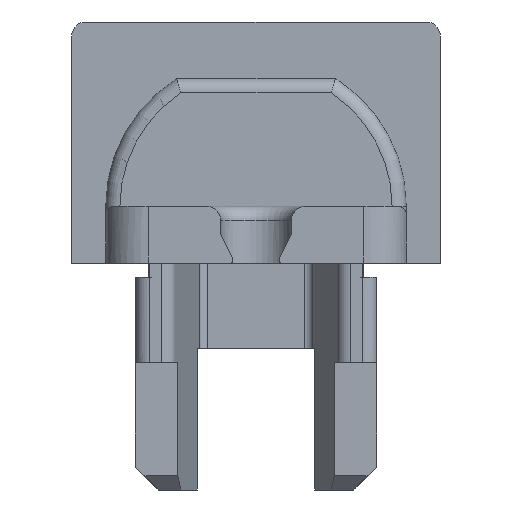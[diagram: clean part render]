
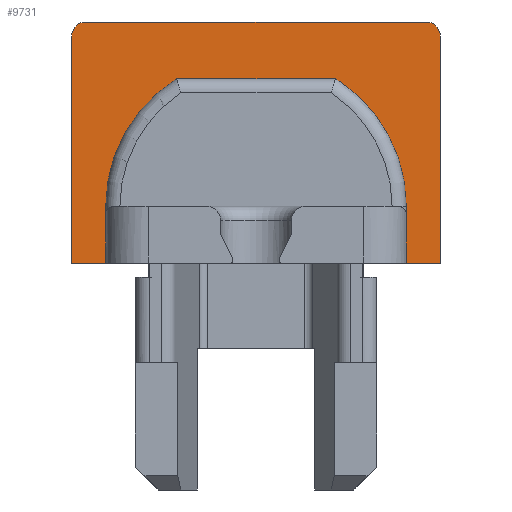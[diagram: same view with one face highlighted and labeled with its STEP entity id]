
A CAD part, front view. The second image highlights one B-rep face of the part: STEP entity #9731.
In plain terms, the highlighted planar face has unit normal (0, -1, 0).
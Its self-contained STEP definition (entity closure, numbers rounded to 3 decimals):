
#84 = DIRECTION ( 'NONE',  ( 0., 1., 0. ) ) ;
#231 = AXIS2_PLACEMENT_3D ( 'NONE', #2686, #4953, #7298 ) ;
#274 = DIRECTION ( 'NONE',  ( 1., 0., 0. ) ) ;
#308 = DIRECTION ( 'NONE',  ( 1., 0., 0. ) ) ;
#318 = CARTESIAN_POINT ( 'NONE',  ( 5.3, 7.5, 2. ) ) ;
#390 = AXIS2_PLACEMENT_3D ( 'NONE', #3568, #1244, #4775 ) ;
#519 = DIRECTION ( 'NONE',  ( 0., 0., -1. ) ) ;
#543 = CARTESIAN_POINT ( 'NONE',  ( 2.8, 7.5, 6.5 ) ) ;
#573 = DIRECTION ( 'NONE',  ( -1., 0., 0. ) ) ;
#875 = EDGE_CURVE ( 'NONE', #2328, #11661, #6650, .T. ) ;
#1006 = ORIENTED_EDGE ( 'NONE', *, *, #11050, .F. ) ;
#1181 = LINE ( 'NONE', #13887, #6214 ) ;
#1244 = DIRECTION ( 'NONE',  ( 0., -1., 0. ) ) ;
#1368 = EDGE_CURVE ( 'NONE', #11661, #4705, #6259, .T. ) ;
#1410 = DIRECTION ( 'NONE',  ( 1., 0., 0. ) ) ;
#1544 = AXIS2_PLACEMENT_3D ( 'NONE', #4915, #9555, #8415 ) ;
#1600 = CARTESIAN_POINT ( 'NONE',  ( 0., 7.5, 2. ) ) ;
#1619 = EDGE_CURVE ( 'NONE', #12023, #14483, #4575, .T. ) ;
#1650 = VERTEX_POINT ( 'NONE', #7072 ) ;
#1682 = ORIENTED_EDGE ( 'NONE', *, *, #1619, .T. ) ;
#1827 = EDGE_CURVE ( 'NONE', #2487, #9549, #6095, .T. ) ;
#2019 = VECTOR ( 'NONE', #14184, 1000. ) ;
#2034 = CARTESIAN_POINT ( 'NONE',  ( 5.3, 7.5, 1.7 ) ) ;
#2080 = CARTESIAN_POINT ( 'NONE',  ( 5.3, 7.5, 0. ) ) ;
#2082 = VECTOR ( 'NONE', #9439, 1000. ) ;
#2328 = VERTEX_POINT ( 'NONE', #6448 ) ;
#2339 = AXIS2_PLACEMENT_3D ( 'NONE', #1600, #12794, #308 ) ;
#2487 = VERTEX_POINT ( 'NONE', #543 ) ;
#2499 = ORIENTED_EDGE ( 'NONE', *, *, #12017, .T. ) ;
#2516 = CARTESIAN_POINT ( 'NONE',  ( 6.5, 7.5, 8. ) ) ;
#2685 = CARTESIAN_POINT ( 'NONE',  ( -2.8, 7.5, 6.5 ) ) ;
#2686 = CARTESIAN_POINT ( 'NONE',  ( 6., 7.5, 8. ) ) ;
#2913 = CARTESIAN_POINT ( 'NONE',  ( -5.3, 7.5, 2. ) ) ;
#3051 = CIRCLE ( 'NONE', #2339, 5.3 ) ;
#3314 = ORIENTED_EDGE ( 'NONE', *, *, #8057, .F. ) ;
#3568 = CARTESIAN_POINT ( 'NONE',  ( -6., 7.5, 8. ) ) ;
#3594 = CIRCLE ( 'NONE', #231, 0.5 ) ;
#4067 = ORIENTED_EDGE ( 'NONE', *, *, #10147, .T. ) ;
#4088 = CARTESIAN_POINT ( 'NONE',  ( 5.3, 7.5, 0. ) ) ;
#4424 = EDGE_LOOP ( 'NONE', ( #12896, #2499, #1006, #7783, #5605, #4067, #13549, #12945, #3314, #13296, #8320, #1682, #14324, #11537 ) ) ;
#4552 = CARTESIAN_POINT ( 'NONE',  ( 6.5, 7.5, 0. ) ) ;
#4569 = LINE ( 'NONE', #13819, #8088 ) ;
#4575 = LINE ( 'NONE', #5716, #2082 ) ;
#4634 = LINE ( 'NONE', #8212, #14741 ) ;
#4685 = DIRECTION ( 'NONE',  ( -1., 0., 0. ) ) ;
#4705 = VERTEX_POINT ( 'NONE', #12779 ) ;
#4751 = VECTOR ( 'NONE', #9029, 1000. ) ;
#4764 = FACE_OUTER_BOUND ( 'NONE', #4424, .T. ) ;
#4775 = DIRECTION ( 'NONE',  ( -1., 0., 0. ) ) ;
#4810 = VECTOR ( 'NONE', #14485, 1000. ) ;
#4915 = CARTESIAN_POINT ( 'NONE',  ( 0., 7.5, 2. ) ) ;
#4953 = DIRECTION ( 'NONE',  ( 0., -1., 0. ) ) ;
#5605 = ORIENTED_EDGE ( 'NONE', *, *, #1368, .T. ) ;
#5716 = CARTESIAN_POINT ( 'NONE',  ( 5.3, 7.5, 2. ) ) ;
#5960 = AXIS2_PLACEMENT_3D ( 'NONE', #318, #84, #4685 ) ;
#6095 = LINE ( 'NONE', #2685, #9802 ) ;
#6214 = VECTOR ( 'NONE', #1410, 1000. ) ;
#6259 = LINE ( 'NONE', #10897, #7878 ) ;
#6448 = CARTESIAN_POINT ( 'NONE',  ( -6., 7.5, 8.5 ) ) ;
#6650 = CIRCLE ( 'NONE', #390, 0.5 ) ;
#6799 = EDGE_CURVE ( 'NONE', #14660, #14831, #8877, .T. ) ;
#6834 = CARTESIAN_POINT ( 'NONE',  ( 6., 7.5, 8.5 ) ) ;
#7059 = EDGE_CURVE ( 'NONE', #14483, #14660, #4569, .T. ) ;
#7072 = CARTESIAN_POINT ( 'NONE',  ( -5.3, 7.5, 2. ) ) ;
#7298 = DIRECTION ( 'NONE',  ( -1., 0., 0. ) ) ;
#7535 = VERTEX_POINT ( 'NONE', #9252 ) ;
#7783 = ORIENTED_EDGE ( 'NONE', *, *, #875, .T. ) ;
#7809 = EDGE_CURVE ( 'NONE', #7833, #7535, #11926, .T. ) ;
#7815 = CIRCLE ( 'NONE', #1544, 5.3 ) ;
#7824 = PLANE ( 'NONE',  #5960 ) ;
#7833 = VERTEX_POINT ( 'NONE', #8355 ) ;
#7878 = VECTOR ( 'NONE', #519, 1000. ) ;
#8057 = EDGE_CURVE ( 'NONE', #9549, #1650, #7815, .T. ) ;
#8088 = VECTOR ( 'NONE', #10073, 1000. ) ;
#8160 = CARTESIAN_POINT ( 'NONE',  ( -6.5, 7.5, 8. ) ) ;
#8212 = CARTESIAN_POINT ( 'NONE',  ( -6.5, 7.5, 8.5 ) ) ;
#8320 = ORIENTED_EDGE ( 'NONE', *, *, #9257, .F. ) ;
#8355 = CARTESIAN_POINT ( 'NONE',  ( -5.3, 7.5, 1.7 ) ) ;
#8415 = DIRECTION ( 'NONE',  ( 1., 0., 0. ) ) ;
#8877 = LINE ( 'NONE', #4088, #10764 ) ;
#9029 = DIRECTION ( 'NONE',  ( 0., 0., -1. ) ) ;
#9252 = CARTESIAN_POINT ( 'NONE',  ( -5.3, 7.5, 0. ) ) ;
#9257 = EDGE_CURVE ( 'NONE', #12023, #2487, #3051, .T. ) ;
#9439 = DIRECTION ( 'NONE',  ( 0., 0., -1. ) ) ;
#9549 = VERTEX_POINT ( 'NONE', #10650 ) ;
#9555 = DIRECTION ( 'NONE',  ( 0., -1., 0. ) ) ;
#9650 = CARTESIAN_POINT ( 'NONE',  ( -5.3, 7.5, 2. ) ) ;
#9731 = ADVANCED_FACE ( 'NONE', ( #4764 ), #7824, .F. ) ;
#9802 = VECTOR ( 'NONE', #573, 1000. ) ;
#10073 = DIRECTION ( 'NONE',  ( 0., 0., -1. ) ) ;
#10147 = EDGE_CURVE ( 'NONE', #4705, #7535, #1181, .T. ) ;
#10167 = VERTEX_POINT ( 'NONE', #6834 ) ;
#10332 = EDGE_CURVE ( 'NONE', #12421, #14831, #12447, .T. ) ;
#10650 = CARTESIAN_POINT ( 'NONE',  ( -2.8, 7.5, 6.5 ) ) ;
#10764 = VECTOR ( 'NONE', #11085, 1000. ) ;
#10897 = CARTESIAN_POINT ( 'NONE',  ( -6.5, 7.5, 2. ) ) ;
#11050 = EDGE_CURVE ( 'NONE', #2328, #10167, #4634, .T. ) ;
#11085 = DIRECTION ( 'NONE',  ( 1., 0., 0. ) ) ;
#11537 = ORIENTED_EDGE ( 'NONE', *, *, #6799, .T. ) ;
#11661 = VERTEX_POINT ( 'NONE', #8160 ) ;
#11926 = LINE ( 'NONE', #9650, #2019 ) ;
#11936 = CARTESIAN_POINT ( 'NONE',  ( 5.3, 7.5, 2. ) ) ;
#12017 = EDGE_CURVE ( 'NONE', #12421, #10167, #3594, .T. ) ;
#12023 = VERTEX_POINT ( 'NONE', #11936 ) ;
#12163 = LINE ( 'NONE', #2913, #4810 ) ;
#12421 = VERTEX_POINT ( 'NONE', #2516 ) ;
#12447 = LINE ( 'NONE', #14619, #4751 ) ;
#12779 = CARTESIAN_POINT ( 'NONE',  ( -6.5, 7.5, 0. ) ) ;
#12794 = DIRECTION ( 'NONE',  ( 0., -1., 0. ) ) ;
#12896 = ORIENTED_EDGE ( 'NONE', *, *, #10332, .F. ) ;
#12945 = ORIENTED_EDGE ( 'NONE', *, *, #12992, .F. ) ;
#12992 = EDGE_CURVE ( 'NONE', #1650, #7833, #12163, .T. ) ;
#13296 = ORIENTED_EDGE ( 'NONE', *, *, #1827, .F. ) ;
#13549 = ORIENTED_EDGE ( 'NONE', *, *, #7809, .F. ) ;
#13819 = CARTESIAN_POINT ( 'NONE',  ( 5.3, 7.5, 2. ) ) ;
#13887 = CARTESIAN_POINT ( 'NONE',  ( -5.3, 7.5, 0. ) ) ;
#14184 = DIRECTION ( 'NONE',  ( 0., 0., -1. ) ) ;
#14324 = ORIENTED_EDGE ( 'NONE', *, *, #7059, .T. ) ;
#14483 = VERTEX_POINT ( 'NONE', #2034 ) ;
#14485 = DIRECTION ( 'NONE',  ( 0., 0., -1. ) ) ;
#14619 = CARTESIAN_POINT ( 'NONE',  ( 6.5, 7.5, 2. ) ) ;
#14660 = VERTEX_POINT ( 'NONE', #2080 ) ;
#14741 = VECTOR ( 'NONE', #274, 1000. ) ;
#14831 = VERTEX_POINT ( 'NONE', #4552 ) ;
